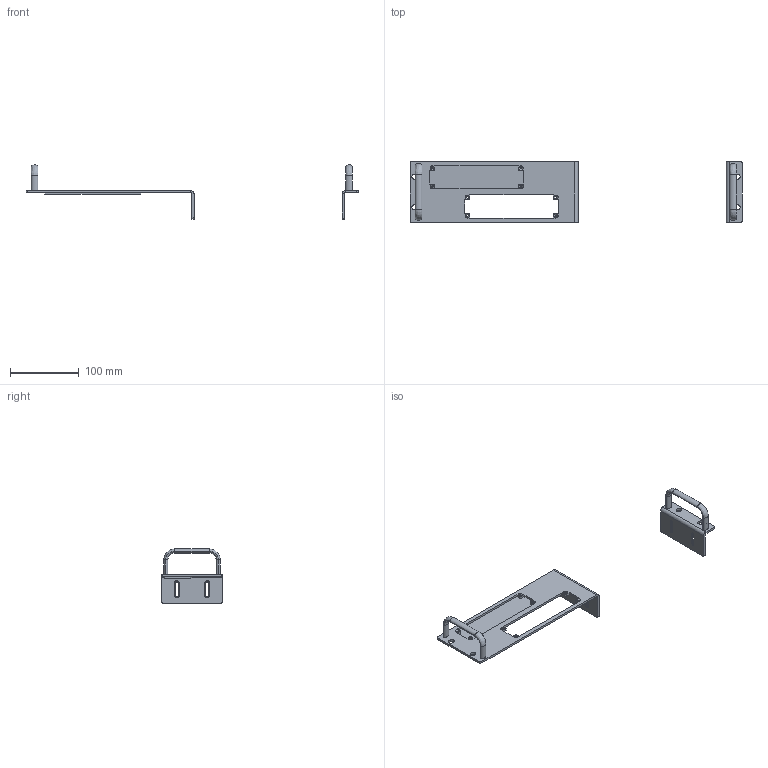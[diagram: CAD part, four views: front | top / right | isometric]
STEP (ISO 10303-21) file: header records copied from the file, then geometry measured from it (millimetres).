
FILE_DESCRIPTION (( 'STEP AP214' ), '1' );
FILE_NAME ('M81-RMK-2.STEP', '2023-04-25T14:11:05', ( '' ), ( '' ), 'SwSTEP 2.0', 'SolidWorks 2020', '' );
FILE_SCHEMA (( 'AUTOMOTIVE_DESIGN' ));
Length unit declared in the file: inch
Products named in the file (1): M81-RMK-2
Bounding box: 482.68 x 88.65 x 78.87 mm (x, y, z)
Volume: 90403.3 mm3; surface area: 67129 mm2
Topology: 5 solids, 5 shells, 234 faces, 588 edges, 360 vertices
Faces by surface type: cylinder 88, plane 82, cone 44, bspline 20
Entity records: 10258 total; most frequent: CARTESIAN_POINT 1451, DIRECTION 1206, ORIENTED_EDGE 1160, EDGE_CURVE 580, AXIS2_PLACEMENT_3D 435, VERTEX_POINT 360, VECTOR 336, LINE 336
